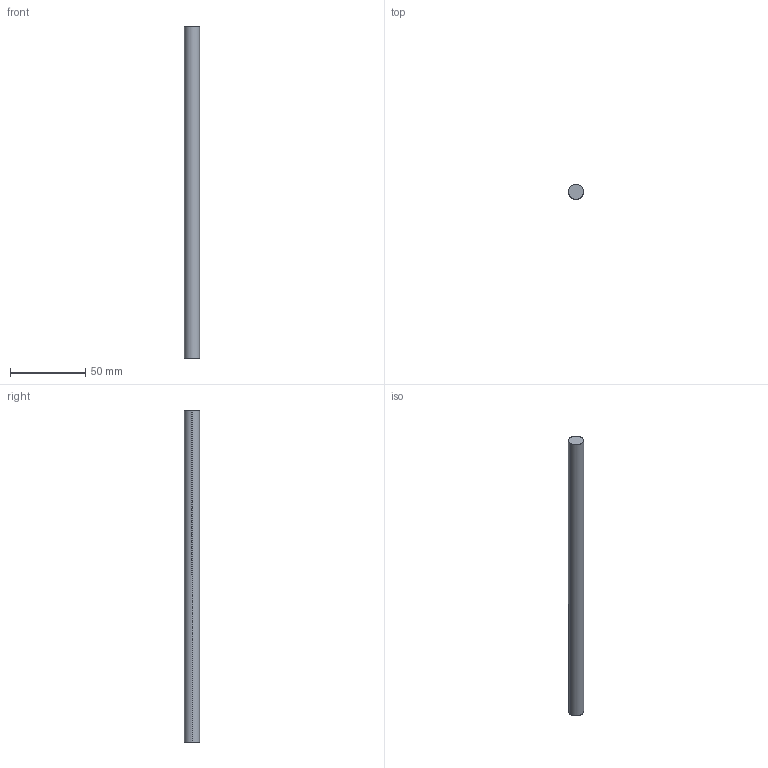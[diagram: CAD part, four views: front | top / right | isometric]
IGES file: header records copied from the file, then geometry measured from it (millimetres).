
Start section: SolidWorks IGES file using analytic representation for surfaces
Global section: file name: C:\Users\fablab-info\Desktop\Miroir cylindro-parabolique\IGS 3D\Arbre de rotation.IGS; native system: SolidWorks 2017; preprocessor: SolidWorks 2017; author: fablab-info; date: 190712.155135; units: millimetre
Bounding box: 10 x 10 x 220 mm (x, y, z)
Surface area: 7068.6 mm2 (no closed solid volume)
Topology: 0 solids, 0 shells, 4 faces, 72 edges, 72 vertices
Faces by surface type: revolution 2, bspline 2
